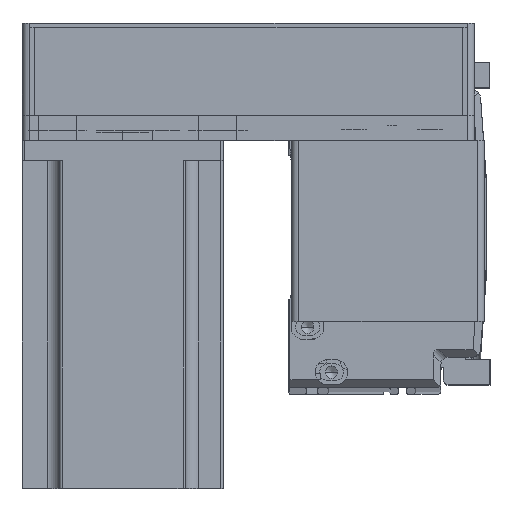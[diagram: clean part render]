
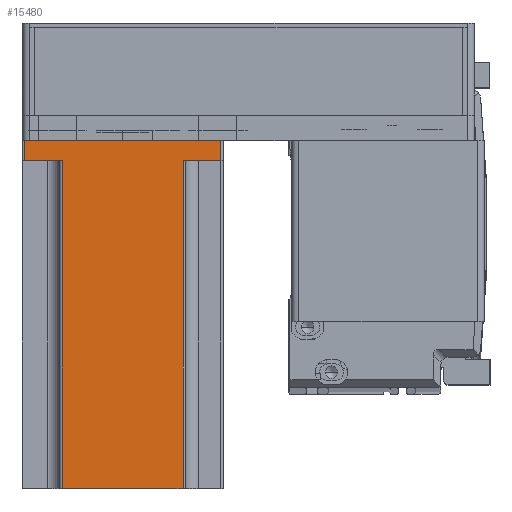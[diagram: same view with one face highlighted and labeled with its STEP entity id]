
A CAD part, top view. The second image highlights one B-rep face of the part: STEP entity #15480.
In plain terms, the highlighted planar face has unit normal (0, 0, 1) as drawn and (0, 1, 0) by its records, which use the part's own axes.
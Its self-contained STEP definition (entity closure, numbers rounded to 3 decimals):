
#2147 = ORIENTED_EDGE ( 'NONE', *, *, #7215, .T. ) ;
#2403 = DIRECTION ( 'NONE',  ( 0., 0., 1. ) ) ;
#3358 = CARTESIAN_POINT ( 'NONE',  ( 40., 40., 0. ) ) ;
#3433 = CARTESIAN_POINT ( 'NONE',  ( -39., 40., 0. ) ) ;
#4013 = EDGE_CURVE ( 'NONE', #8008, #53821, #9544, .T. ) ;
#4247 = VECTOR ( 'NONE', #38462, 1000. ) ;
#5703 = EDGE_CURVE ( 'NONE', #53062, #27864, #39614, .T. ) ;
#6888 = LINE ( 'NONE', #17892, #28756 ) ;
#7215 = EDGE_CURVE ( 'NONE', #8008, #45754, #43602, .T. ) ;
#7671 = LINE ( 'NONE', #3358, #52784 ) ;
#8008 = VERTEX_POINT ( 'NONE', #11764 ) ;
#8194 = VECTOR ( 'NONE', #50863, 1000. ) ;
#8455 = CARTESIAN_POINT ( 'NONE',  ( 39., 40., 0. ) ) ;
#9370 = CARTESIAN_POINT ( 'NONE',  ( -24., 40., 8. ) ) ;
#9413 = EDGE_CURVE ( 'NONE', #20064, #53821, #6888, .T. ) ;
#9544 = LINE ( 'NONE', #20347, #8194 ) ;
#10471 = ORIENTED_EDGE ( 'NONE', *, *, #9413, .T. ) ;
#11764 = CARTESIAN_POINT ( 'NONE',  ( 39., 40., 8. ) ) ;
#15480 = ADVANCED_FACE ( 'NONE', ( #20312 ), #27362, .F. ) ;
#17592 = EDGE_CURVE ( 'NONE', #54740, #49299, #48654, .T. ) ;
#17892 = CARTESIAN_POINT ( 'NONE',  ( 24., 40., 138.3 ) ) ;
#19052 = VECTOR ( 'NONE', #26901, 1000. ) ;
#20064 = VERTEX_POINT ( 'NONE', #22046 ) ;
#20312 = FACE_OUTER_BOUND ( 'NONE', #22536, .T. ) ;
#20347 = CARTESIAN_POINT ( 'NONE',  ( 25., 40., 8. ) ) ;
#22046 = CARTESIAN_POINT ( 'NONE',  ( 24., 40., 138.3 ) ) ;
#22231 = EDGE_CURVE ( 'NONE', #20064, #27864, #30496, .T. ) ;
#22536 = EDGE_LOOP ( 'NONE', ( #35953, #32199, #36587, #10471, #37576, #2147, #38525, #44523 ) ) ;
#23061 = DIRECTION ( 'NONE',  ( 0., 0., 1. ) ) ;
#23199 = DIRECTION ( 'NONE',  ( 0., -1., 0. ) ) ;
#26901 = DIRECTION ( 'NONE',  ( 0., 0., -1. ) ) ;
#27061 = CARTESIAN_POINT ( 'NONE',  ( 24., 40., 8. ) ) ;
#27241 = CARTESIAN_POINT ( 'NONE',  ( -24., 40., 138.3 ) ) ;
#27362 = PLANE ( 'NONE',  #52120 ) ;
#27516 = LINE ( 'NONE', #42881, #4247 ) ;
#27864 = VERTEX_POINT ( 'NONE', #53394 ) ;
#27999 = VECTOR ( 'NONE', #23061, 1000. ) ;
#28756 = VECTOR ( 'NONE', #47998, 1000. ) ;
#29170 = VECTOR ( 'NONE', #29949, 1000. ) ;
#29949 = DIRECTION ( 'NONE',  ( -1., 0., 0. ) ) ;
#30496 = LINE ( 'NONE', #56175, #29170 ) ;
#32199 = ORIENTED_EDGE ( 'NONE', *, *, #5703, .T. ) ;
#35953 = ORIENTED_EDGE ( 'NONE', *, *, #44623, .T. ) ;
#36587 = ORIENTED_EDGE ( 'NONE', *, *, #22231, .F. ) ;
#37044 = VECTOR ( 'NONE', #2403, 1000. ) ;
#37576 = ORIENTED_EDGE ( 'NONE', *, *, #4013, .F. ) ;
#38462 = DIRECTION ( 'NONE',  ( 1., 0., 0. ) ) ;
#38525 = ORIENTED_EDGE ( 'NONE', *, *, #40696, .T. ) ;
#39614 = LINE ( 'NONE', #27241, #27999 ) ;
#40696 = EDGE_CURVE ( 'NONE', #45754, #54740, #7671, .T. ) ;
#41426 = CARTESIAN_POINT ( 'NONE',  ( -39., 40., 8. ) ) ;
#42740 = DIRECTION ( 'NONE',  ( -1., 0., 0. ) ) ;
#42881 = CARTESIAN_POINT ( 'NONE',  ( -25., 40., 8. ) ) ;
#43602 = LINE ( 'NONE', #53090, #19052 ) ;
#44523 = ORIENTED_EDGE ( 'NONE', *, *, #17592, .T. ) ;
#44623 = EDGE_CURVE ( 'NONE', #49299, #53062, #27516, .T. ) ;
#45754 = VERTEX_POINT ( 'NONE', #8455 ) ;
#47998 = DIRECTION ( 'NONE',  ( 0., 0., -1. ) ) ;
#48654 = LINE ( 'NONE', #50373, #37044 ) ;
#49299 = VERTEX_POINT ( 'NONE', #41426 ) ;
#49305 = CARTESIAN_POINT ( 'NONE',  ( 40., 40., 138.3 ) ) ;
#50373 = CARTESIAN_POINT ( 'NONE',  ( -39., 40., 138.3 ) ) ;
#50863 = DIRECTION ( 'NONE',  ( -1., 0., 0. ) ) ;
#52120 = AXIS2_PLACEMENT_3D ( 'NONE', #49305, #23199, #53739 ) ;
#52784 = VECTOR ( 'NONE', #42740, 1000. ) ;
#53062 = VERTEX_POINT ( 'NONE', #9370 ) ;
#53090 = CARTESIAN_POINT ( 'NONE',  ( 39., 40., 138.3 ) ) ;
#53394 = CARTESIAN_POINT ( 'NONE',  ( -24., 40., 138.3 ) ) ;
#53739 = DIRECTION ( 'NONE',  ( 1., 0., 0. ) ) ;
#53821 = VERTEX_POINT ( 'NONE', #27061 ) ;
#54740 = VERTEX_POINT ( 'NONE', #3433 ) ;
#56175 = CARTESIAN_POINT ( 'NONE',  ( 40., 40., 138.3 ) ) ;
